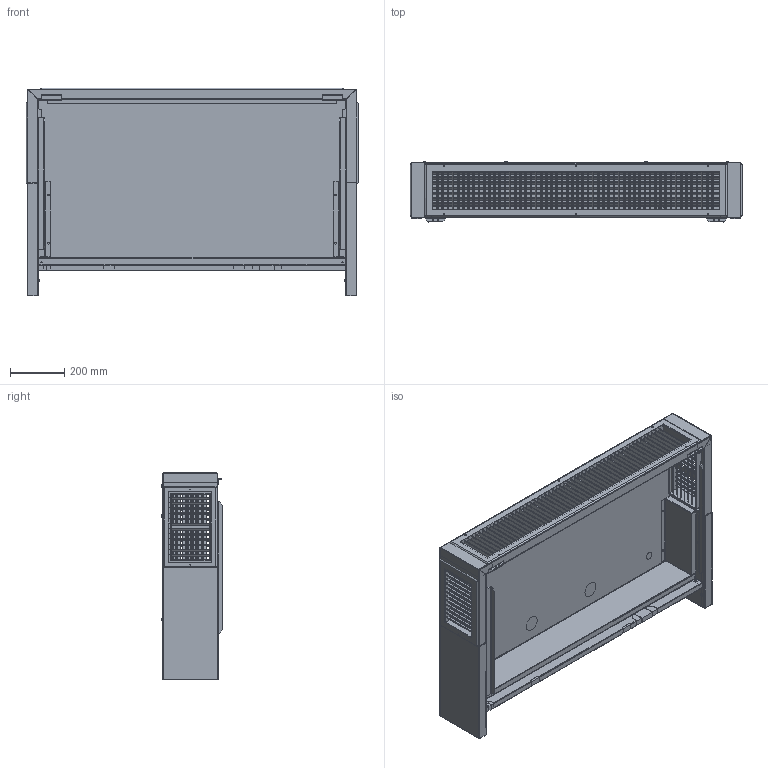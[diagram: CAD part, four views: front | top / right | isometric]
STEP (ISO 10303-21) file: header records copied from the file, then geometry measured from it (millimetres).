
FILE_DESCRIPTION (( 'STEP AP214' ), '1' );
FILE_NAME ('IPBDF8 PLENUM BOX WITH 4 WAY DEFLECT.STEP', '2016-07-14T15:25:06', ( 'BMC' ), ( 'Bard Manufacturing Co., Inc.' ), 'SwSTEP 2.0', 'SolidWorks 2016', '' );
FILE_SCHEMA (( 'AUTOMOTIVE_DESIGN' ));
Length unit declared in the file: inch
Products named in the file (21): IPBDF8 PLENUM BOX WITH 4 WAY DEFLECT; 106-316; 134-321; 136-658; 5021-1717; 5021-1725; 5021-1718; 5021-1720; 1012-086; 7051-078 louver2; 102-496; 112-450; 5021-1719; 7051-079, louver; 108-264; 100-648; 114-213; 134-337; 7051-079, new frame; 7051-079; 7051-046
Assembly tree (104 placements, depth 3):
  IPBDF8 PLENUM BOX WITH 4 WAY DEFLECT
    106-316
    134-321
    136-658  x2
    5021-1717  x2
    5021-1725  x2
    5021-1718
    5021-1720
    1012-086  x18
    102-496  x2
    112-450  x2
    5021-1719
    108-264
    100-648  x2
    114-213
    134-337  x2
    7051-079
      7051-079, new frame
      7051-078 louver2  x54
      7051-079, louver  x7
    7051-046  x2
Bounding box: 1219.31 x 224.2 x 762.77 mm (x, y, z)
Surface area: 10189154.1 mm2 (no closed solid volume)
Topology: 0 solids, 141 shells, 2463 faces, 6638 edges, 4426 vertices
Faces by surface type: plane 1412, cylinder 971, bspline 44, cone 36
Entity records: 49555 total; most frequent: CARTESIAN_POINT 15373, DIRECTION 7021, ORIENTED_EDGE 6504, EDGE_CURVE 3435, AXIS2_PLACEMENT_3D 2535, VERTEX_POINT 2279, LINE 1951, VECTOR 1951
